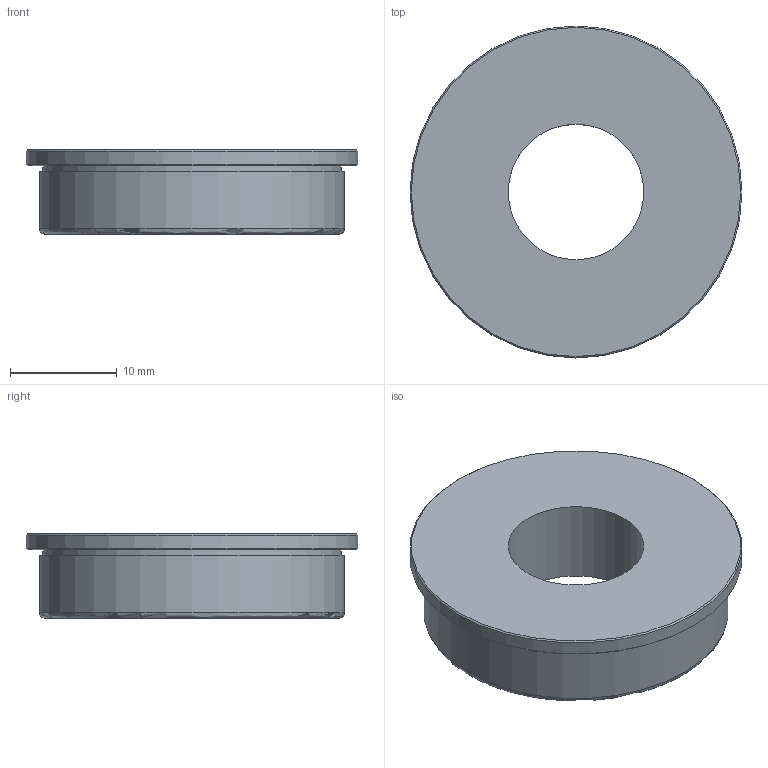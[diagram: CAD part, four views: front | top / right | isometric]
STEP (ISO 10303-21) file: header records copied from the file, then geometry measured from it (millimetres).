
FILE_DESCRIPTION(/* description */ (''),/* implementation_level */ '2;1');
FILE_NAME(/* name */ 'Bearing FR8ZZ .step',/* time_stamp */ '2022-12-29T16:20:34-08:00',/* author */ (''),/* organization */ (''),/* preprocessor_version */ 'ST-DEVELOPER v19.2',/* originating_system */ 'Autodesk Translation Framework v11.17.0.187',/* authorisation */ '');
FILE_SCHEMA (('AUTOMOTIVE_DESIGN { 1 0 10303 214 3 1 1 }'));
Length unit declared in the file: inch
Products named in the file (1): Bearing FR8ZZ
Bounding box: 31.11 x 31.11 x 7.93 mm (x, y, z)
Volume: 4239.5 mm3; surface area: 2328.1 mm2
Topology: 1 solids, 1 shells, 11 faces, 21 edges, 14 vertices
Faces by surface type: cylinder 4, plane 4, cone 2, torus 1
Full cylindrical faces by diameter (mm): 12.7 x1, 27.94 x1, 28.575 x1, 31.115 x1
Entity records: 612 total; most frequent: CARTESIAN_POINT 311, DIRECTION 56, ORIENTED_EDGE 42, AXIS2_PLACEMENT_3D 25, EDGE_CURVE 21, EDGE_LOOP 15, VERTEX_POINT 14, CIRCLE 13
